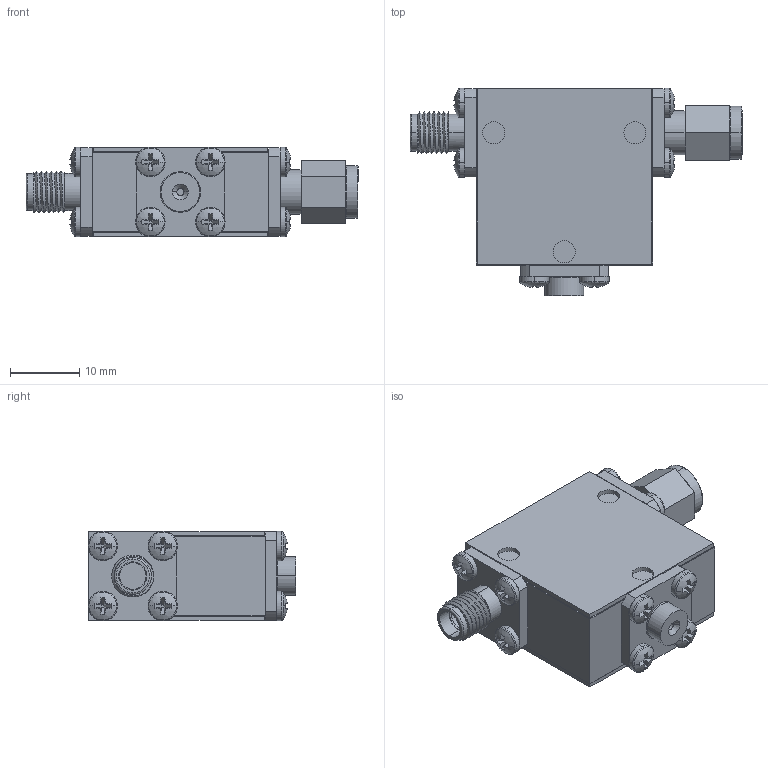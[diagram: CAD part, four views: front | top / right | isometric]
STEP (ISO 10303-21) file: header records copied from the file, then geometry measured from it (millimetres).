
FILE_DESCRIPTION (( 'STEP AP214' ), '1' );
FILE_NAME ('Package 3-2 Iso FM - Cryo Unshielded.STEP', '2023-12-19T23:50:55', ( '' ), ( '' ), 'SwSTEP 2.0', 'SolidWorks 2016', '' );
FILE_SCHEMA (( 'AUTOMOTIVE_DESIGN' ));
Length unit declared in the file: inch
Products named in the file (7): pan cross head_ai_CR-PHMS 0.086-56x0.125x0.125-N; Package Size 3; Package 3-2 Iso FM - Cryo Unshielded; 030013-1A Same Base thickness as connectors; WR048; Delta SMA-Female 0.500 flange Threaded; Delta SMA-Male
Assembly tree (17 placements, depth 2):
  Package 3-2 Iso FM - Cryo Unshielded
    Package Size 3
    Delta SMA-Female 0.500 flange Threaded
    pan cross head_ai_CR-PHMS 0.086-56x0.125x0.125-N  x12
    030013-1A Same Base thickness as connectors
    Delta SMA-Male
    WR048
Bounding box: 47.8 x 29.93 x 12.88 mm (x, y, z)
Volume: 9548.1 mm3; surface area: 8418.2 mm2
Topology: 17 solids, 17 shells, 430 faces, 985 edges, 609 vertices
Faces by surface type: plane 237, cylinder 128, torus 34, sphere 24, cone 4, bspline 3
Entity records: 6509 total; most frequent: CARTESIAN_POINT 1650, DIRECTION 1039, ORIENTED_EDGE 870, EDGE_CURVE 435, AXIS2_PLACEMENT_3D 418, VERTEX_POINT 279, EDGE_LOOP 236, CIRCLE 224
